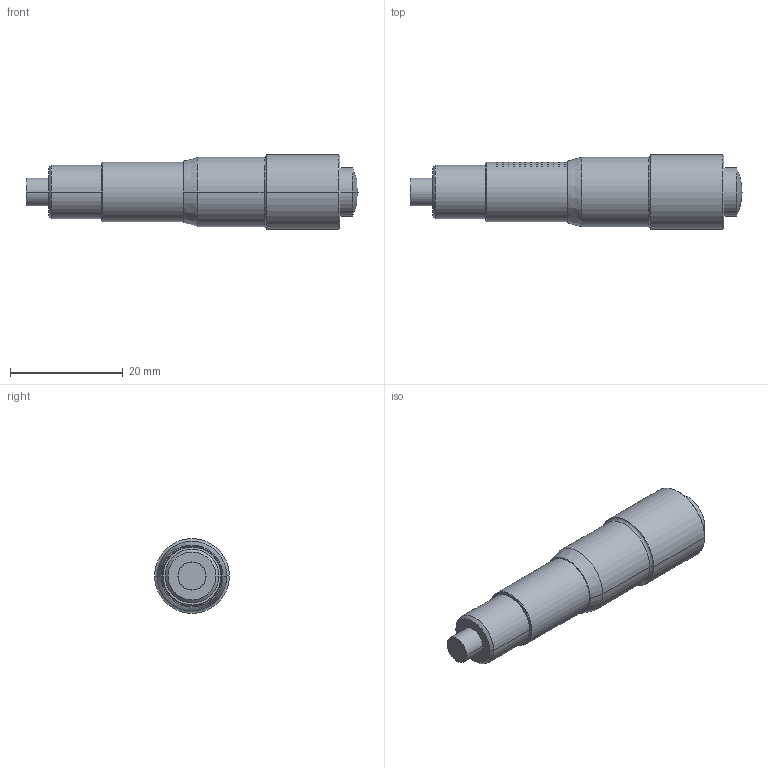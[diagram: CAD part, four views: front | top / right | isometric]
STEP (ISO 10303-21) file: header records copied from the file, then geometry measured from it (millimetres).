
FILE_DESCRIPTION((''),'2;1');
FILE_NAME('MICRO-HEAD-13-F-SJP','2021-07-12T17:45:00',('windows10'),(''),'CREO PARAMETRIC BY PTC INC, 2018260','CREO PARAMETRIC BY PTC INC, 2018260','');
FILE_SCHEMA(('CONFIG_CONTROL_DESIGN'));
Length unit declared in the file: millimetre
Products named in the file (1): MICRO-HEAD-13-F-SJP
Bounding box: 59 x 13.3 x 13.3 mm (x, y, z)
Volume: 4547.3 mm3; surface area: 4583.9 mm2
Topology: 2 solids, 3 shells, 321 faces, 825 edges, 545 vertices
Faces by surface type: plane 254, cylinder 51, cone 10, torus 4, sphere 2
Entity records: 9750 total; most frequent: CARTESIAN_POINT 2131, ORIENTED_EDGE 1642, DIRECTION 1443, EDGE_CURVE 823, VERTEX_POINT 545, AXIS2_PLACEMENT_3D 518, VECTOR 407, LINE 407
